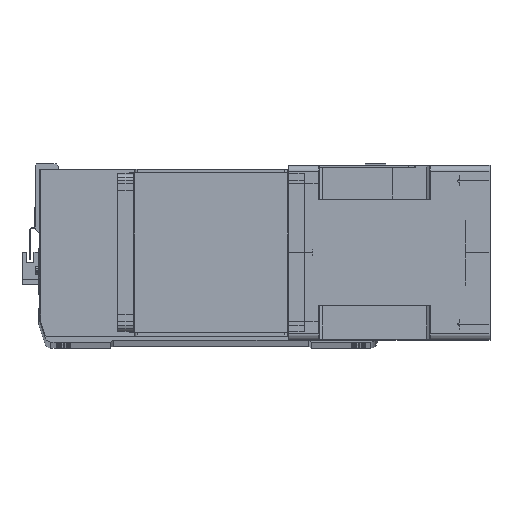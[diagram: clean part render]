
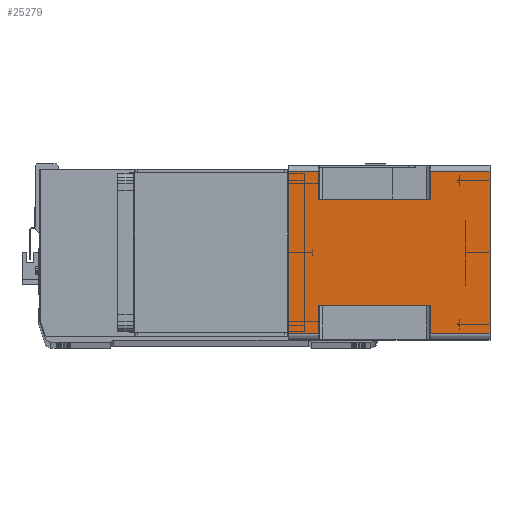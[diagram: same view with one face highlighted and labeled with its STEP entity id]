
A CAD part, top view. The second image highlights one B-rep face of the part: STEP entity #25279.
In plain terms, the highlighted planar face has unit normal (0, 0, 1) as drawn and (1, 0, 0) by its records, which use the part's own axes.
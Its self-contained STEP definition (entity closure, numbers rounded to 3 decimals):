
#274 = ORIENTED_EDGE ( 'NONE', *, *, #21702, .T. ) ;
#557 = VERTEX_POINT ( 'NONE', #6281 ) ;
#855 = FACE_OUTER_BOUND ( 'NONE', #9656, .T. ) ;
#970 = LINE ( 'NONE', #32399, #8389 ) ;
#1081 = VERTEX_POINT ( 'NONE', #21251 ) ;
#1268 = EDGE_CURVE ( 'NONE', #5279, #28662, #17668, .T. ) ;
#1279 = ORIENTED_EDGE ( 'NONE', *, *, #1268, .F. ) ;
#2898 = VERTEX_POINT ( 'NONE', #32742 ) ;
#3405 = VECTOR ( 'NONE', #22729, 1000. ) ;
#3506 = VECTOR ( 'NONE', #29781, 1000. ) ;
#4356 = LINE ( 'NONE', #25667, #33568 ) ;
#4371 = ORIENTED_EDGE ( 'NONE', *, *, #20678, .T. ) ;
#4522 = ORIENTED_EDGE ( 'NONE', *, *, #23417, .T. ) ;
#5006 = VERTEX_POINT ( 'NONE', #15179 ) ;
#5279 = VERTEX_POINT ( 'NONE', #5358 ) ;
#5358 = CARTESIAN_POINT ( 'NONE',  ( 71., 43., -24.5 ) ) ;
#5601 = DIRECTION ( 'NONE',  ( 0., 0., 1. ) ) ;
#6241 = ORIENTED_EDGE ( 'NONE', *, *, #8930, .F. ) ;
#6281 = CARTESIAN_POINT ( 'NONE',  ( 71., -66., -164. ) ) ;
#6743 = CARTESIAN_POINT ( 'NONE',  ( 71., -66., -164. ) ) ;
#6898 = LINE ( 'NONE', #33734, #15241 ) ;
#7041 = VERTEX_POINT ( 'NONE', #29966 ) ;
#7063 = DIRECTION ( 'NONE',  ( 0., 1., 0. ) ) ;
#7563 = DIRECTION ( 'NONE',  ( 0., 0., 1. ) ) ;
#8209 = LINE ( 'NONE', #28227, #14037 ) ;
#8349 = VERTEX_POINT ( 'NONE', #22671 ) ;
#8389 = VECTOR ( 'NONE', #19092, 1000. ) ;
#8930 = EDGE_CURVE ( 'NONE', #2898, #7041, #19898, .T. ) ;
#9171 = ORIENTED_EDGE ( 'NONE', *, *, #20274, .T. ) ;
#9264 = CARTESIAN_POINT ( 'NONE',  ( 71., 66., -115.5 ) ) ;
#9272 = LINE ( 'NONE', #26170, #31821 ) ;
#9446 = CARTESIAN_POINT ( 'NONE',  ( 71., 43., -115.5 ) ) ;
#9457 = ORIENTED_EDGE ( 'NONE', *, *, #13748, .F. ) ;
#9656 = EDGE_LOOP ( 'NONE', ( #32240, #31614, #11358, #4371, #33358, #274, #1279, #4522, #9171, #9457, #6241, #12695 ) ) ;
#9910 = VECTOR ( 'NONE', #5601, 1000. ) ;
#11358 = ORIENTED_EDGE ( 'NONE', *, *, #33289, .F. ) ;
#11557 = AXIS2_PLACEMENT_3D ( 'NONE', #13969, #14323, #16794 ) ;
#11690 = VERTEX_POINT ( 'NONE', #9264 ) ;
#12365 = VECTOR ( 'NONE', #31359, 1000. ) ;
#12407 = LINE ( 'NONE', #13621, #9910 ) ;
#12695 = ORIENTED_EDGE ( 'NONE', *, *, #23989, .T. ) ;
#13621 = CARTESIAN_POINT ( 'NONE',  ( 71., 66., -164. ) ) ;
#13748 = EDGE_CURVE ( 'NONE', #7041, #1081, #19509, .T. ) ;
#13801 = VERTEX_POINT ( 'NONE', #15823 ) ;
#13969 = CARTESIAN_POINT ( 'NONE',  ( 71., -66., -164. ) ) ;
#14037 = VECTOR ( 'NONE', #7063, 1000. ) ;
#14058 = VERTEX_POINT ( 'NONE', #28673 ) ;
#14323 = DIRECTION ( 'NONE',  ( 1., 0., 0. ) ) ;
#15179 = CARTESIAN_POINT ( 'NONE',  ( 71., -66., -115.5 ) ) ;
#15241 = VECTOR ( 'NONE', #23351, 1000. ) ;
#15520 = EDGE_CURVE ( 'NONE', #13801, #5006, #33898, .T. ) ;
#15700 = VECTOR ( 'NONE', #30665, 1000. ) ;
#15823 = CARTESIAN_POINT ( 'NONE',  ( 71., -43., -115.5 ) ) ;
#16794 = DIRECTION ( 'NONE',  ( 0., 1., 0. ) ) ;
#17668 = LINE ( 'NONE', #32330, #3506 ) ;
#19092 = DIRECTION ( 'NONE',  ( 0., 1., 0. ) ) ;
#19509 = LINE ( 'NONE', #23771, #12365 ) ;
#19711 = VERTEX_POINT ( 'NONE', #30032 ) ;
#19718 = DIRECTION ( 'NONE',  ( 0., 0., 1. ) ) ;
#19721 = VECTOR ( 'NONE', #33146, 1000. ) ;
#19898 = LINE ( 'NONE', #6743, #15700 ) ;
#20274 = EDGE_CURVE ( 'NONE', #8349, #1081, #31842, .T. ) ;
#20678 = EDGE_CURVE ( 'NONE', #557, #19711, #970, .T. ) ;
#20728 = DIRECTION ( 'NONE',  ( 0., 0., 1. ) ) ;
#21251 = CARTESIAN_POINT ( 'NONE',  ( 71., 66., 0. ) ) ;
#21702 = EDGE_CURVE ( 'NONE', #11690, #28662, #31774, .T. ) ;
#22406 = PLANE ( 'NONE',  #11557 ) ;
#22643 = EDGE_CURVE ( 'NONE', #19711, #11690, #12407, .T. ) ;
#22671 = CARTESIAN_POINT ( 'NONE',  ( 71., 66., -24.5 ) ) ;
#22729 = DIRECTION ( 'NONE',  ( 0., -1., 0. ) ) ;
#22766 = CARTESIAN_POINT ( 'NONE',  ( 71., -66., -115.5 ) ) ;
#23351 = DIRECTION ( 'NONE',  ( 0., 1., 0. ) ) ;
#23417 = EDGE_CURVE ( 'NONE', #5279, #8349, #8209, .T. ) ;
#23771 = CARTESIAN_POINT ( 'NONE',  ( 71., -66., 0. ) ) ;
#23989 = EDGE_CURVE ( 'NONE', #2898, #14058, #6898, .T. ) ;
#25194 = CARTESIAN_POINT ( 'NONE',  ( 71., 43., -115.5 ) ) ;
#25279 = ADVANCED_FACE ( 'NONE', ( #855 ), #22406, .T. ) ;
#25667 = CARTESIAN_POINT ( 'NONE',  ( 71., -66., -164. ) ) ;
#26170 = CARTESIAN_POINT ( 'NONE',  ( 71., -43., -164. ) ) ;
#27693 = VECTOR ( 'NONE', #19718, 1000. ) ;
#28227 = CARTESIAN_POINT ( 'NONE',  ( 71., -66., -24.5 ) ) ;
#28662 = VERTEX_POINT ( 'NONE', #9446 ) ;
#28673 = CARTESIAN_POINT ( 'NONE',  ( 71., -43., -24.5 ) ) ;
#28835 = EDGE_CURVE ( 'NONE', #13801, #14058, #9272, .T. ) ;
#29781 = DIRECTION ( 'NONE',  ( 0., 0., -1. ) ) ;
#29966 = CARTESIAN_POINT ( 'NONE',  ( 71., -66., 0. ) ) ;
#30032 = CARTESIAN_POINT ( 'NONE',  ( 71., 66., -164. ) ) ;
#30348 = CARTESIAN_POINT ( 'NONE',  ( 71., 66., -164. ) ) ;
#30665 = DIRECTION ( 'NONE',  ( 0., 0., 1. ) ) ;
#31359 = DIRECTION ( 'NONE',  ( 0., 1., 0. ) ) ;
#31614 = ORIENTED_EDGE ( 'NONE', *, *, #15520, .T. ) ;
#31774 = LINE ( 'NONE', #25194, #3405 ) ;
#31821 = VECTOR ( 'NONE', #7563, 1000. ) ;
#31842 = LINE ( 'NONE', #30348, #27693 ) ;
#32240 = ORIENTED_EDGE ( 'NONE', *, *, #28835, .F. ) ;
#32330 = CARTESIAN_POINT ( 'NONE',  ( 71., 43., -164. ) ) ;
#32399 = CARTESIAN_POINT ( 'NONE',  ( 71., -66., -164. ) ) ;
#32742 = CARTESIAN_POINT ( 'NONE',  ( 71., -66., -24.5 ) ) ;
#33146 = DIRECTION ( 'NONE',  ( 0., -1., 0. ) ) ;
#33289 = EDGE_CURVE ( 'NONE', #557, #5006, #4356, .T. ) ;
#33358 = ORIENTED_EDGE ( 'NONE', *, *, #22643, .T. ) ;
#33568 = VECTOR ( 'NONE', #20728, 1000. ) ;
#33734 = CARTESIAN_POINT ( 'NONE',  ( 71., -43., -24.5 ) ) ;
#33898 = LINE ( 'NONE', #22766, #19721 ) ;
